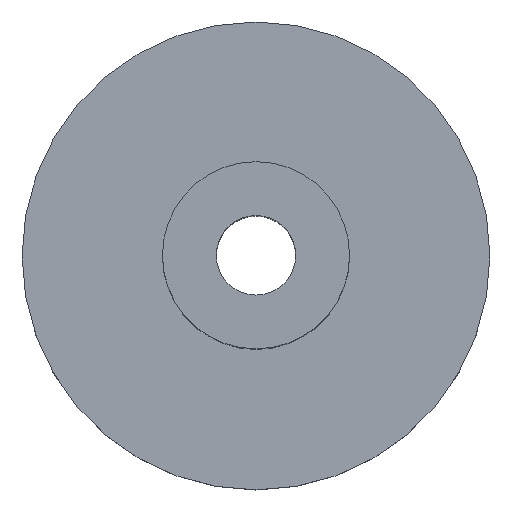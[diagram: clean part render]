
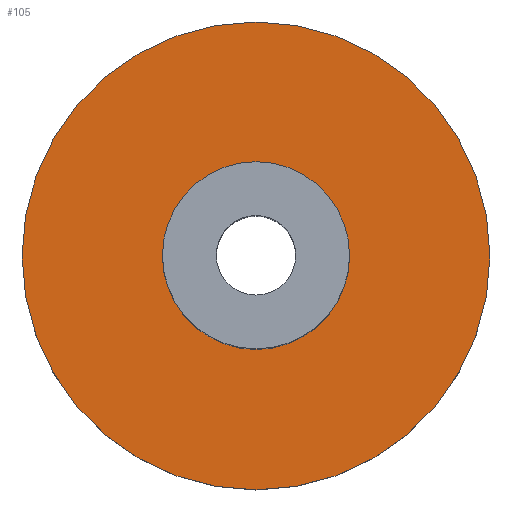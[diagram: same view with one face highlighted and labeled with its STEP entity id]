
A CAD part, top view. The second image highlights one B-rep face of the part: STEP entity #105.
In plain terms, the highlighted planar face has unit normal (0, 0, 1).
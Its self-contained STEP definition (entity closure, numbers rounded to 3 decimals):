
#21 = EDGE_CURVE('',#22,#22,#24,.T.);
#22 = VERTEX_POINT('',#23);
#23 = CARTESIAN_POINT('',(10.,0.,3.));
#24 = SURFACE_CURVE('',#25,(#30,#42),.PCURVE_S1.);
#25 = CIRCLE('',#26,10.);
#26 = AXIS2_PLACEMENT_3D('',#27,#28,#29);
#27 = CARTESIAN_POINT('',(0.,0.,3.));
#28 = DIRECTION('',(0.,0.,1.));
#29 = DIRECTION('',(1.,0.,-0.));
#30 = PCURVE('',#31,#36);
#31 = CYLINDRICAL_SURFACE('',#32,10.);
#32 = AXIS2_PLACEMENT_3D('',#33,#34,#35);
#33 = CARTESIAN_POINT('',(0.,0.,0.));
#34 = DIRECTION('',(0.,0.,1.));
#35 = DIRECTION('',(1.,0.,-0.));
#36 = DEFINITIONAL_REPRESENTATION('',(#37),#41);
#37 = LINE('',#38,#39);
#38 = CARTESIAN_POINT('',(0.,3.));
#39 = VECTOR('',#40,1.);
#40 = DIRECTION('',(1.,0.));
#41 = ( GEOMETRIC_REPRESENTATION_CONTEXT(2) 
PARAMETRIC_REPRESENTATION_CONTEXT() REPRESENTATION_CONTEXT('2D SPACE',''
  ) );
#42 = PCURVE('',#43,#48);
#43 = PLANE('',#44);
#44 = AXIS2_PLACEMENT_3D('',#45,#46,#47);
#45 = CARTESIAN_POINT('',(0.,0.,3.));
#46 = DIRECTION('',(0.,0.,1.));
#47 = DIRECTION('',(1.,0.,-0.));
#48 = DEFINITIONAL_REPRESENTATION('',(#49),#53);
#49 = CIRCLE('',#50,10.);
#50 = AXIS2_PLACEMENT_2D('',#51,#52);
#51 = CARTESIAN_POINT('',(0.,0.));
#52 = DIRECTION('',(1.,0.));
#53 = ( GEOMETRIC_REPRESENTATION_CONTEXT(2) 
PARAMETRIC_REPRESENTATION_CONTEXT() REPRESENTATION_CONTEXT('2D SPACE',''
  ) );
#105 = ADVANCED_FACE('',(#106,#109),#43,.T.);
#106 = FACE_BOUND('',#107,.T.);
#107 = EDGE_LOOP('',(#108));
#108 = ORIENTED_EDGE('',*,*,#21,.T.);
#109 = FACE_BOUND('',#110,.T.);
#110 = EDGE_LOOP('',(#111));
#111 = ORIENTED_EDGE('',*,*,#112,.F.);
#112 = EDGE_CURVE('',#113,#113,#115,.T.);
#113 = VERTEX_POINT('',#114);
#114 = CARTESIAN_POINT('',(4.,0.,3.));
#115 = SURFACE_CURVE('',#116,(#121,#128),.PCURVE_S1.);
#116 = CIRCLE('',#117,4.);
#117 = AXIS2_PLACEMENT_3D('',#118,#119,#120);
#118 = CARTESIAN_POINT('',(0.,0.,3.));
#119 = DIRECTION('',(0.,0.,1.));
#120 = DIRECTION('',(1.,0.,-0.));
#121 = PCURVE('',#43,#122);
#122 = DEFINITIONAL_REPRESENTATION('',(#123),#127);
#123 = CIRCLE('',#124,4.);
#124 = AXIS2_PLACEMENT_2D('',#125,#126);
#125 = CARTESIAN_POINT('',(0.,0.));
#126 = DIRECTION('',(1.,0.));
#127 = ( GEOMETRIC_REPRESENTATION_CONTEXT(2) 
PARAMETRIC_REPRESENTATION_CONTEXT() REPRESENTATION_CONTEXT('2D SPACE',''
  ) );
#128 = PCURVE('',#129,#134);
#129 = CYLINDRICAL_SURFACE('',#130,4.);
#130 = AXIS2_PLACEMENT_3D('',#131,#132,#133);
#131 = CARTESIAN_POINT('',(0.,0.,3.));
#132 = DIRECTION('',(0.,0.,1.));
#133 = DIRECTION('',(1.,0.,-0.));
#134 = DEFINITIONAL_REPRESENTATION('',(#135),#139);
#135 = LINE('',#136,#137);
#136 = CARTESIAN_POINT('',(0.,0.));
#137 = VECTOR('',#138,1.);
#138 = DIRECTION('',(1.,0.));
#139 = ( GEOMETRIC_REPRESENTATION_CONTEXT(2) 
PARAMETRIC_REPRESENTATION_CONTEXT() REPRESENTATION_CONTEXT('2D SPACE',''
  ) );
